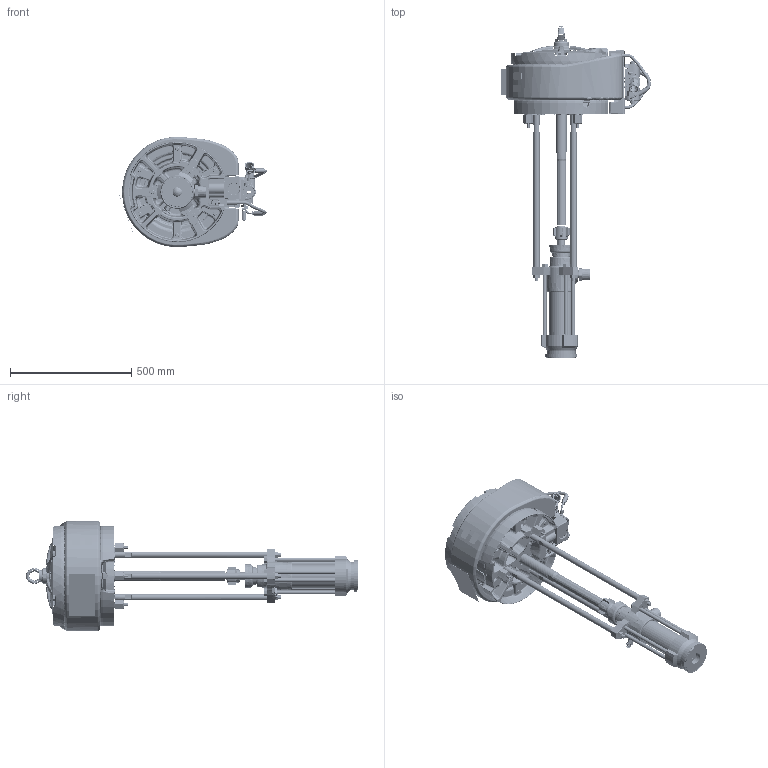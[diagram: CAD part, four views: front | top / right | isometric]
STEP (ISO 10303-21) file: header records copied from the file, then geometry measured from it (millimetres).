
FILE_DESCRIPTION((''),'2;1');
FILE_NAME('P35LCS-EN-E_PRT','2020-05-28T13:57:55',('qusrh3'),(''),'CREO PARAMETRIC BY PTC INC, 2019030','CREO PARAMETRIC BY PTC INC, 2019030','');
FILE_SCHEMA(('CONFIG_CONTROL_DESIGN'));
Length unit declared in the file: inch
Products named in the file (1): P35LCS-EN-E_PRT
Bounding box: 615.56 x 1366.4 x 454.59 mm (x, y, z)
Surface area: 3695355.3 mm2 (no closed solid volume)
Topology: 0 solids, 625 shells, 4210 faces, 17173 edges, 13048 vertices
Faces by surface type: plane 1237, bspline 890, cylinder 879, cone 625, torus 569, extrusion 6, sphere 4
Entity records: 248471 total; most frequent: CARTESIAN_POINT 125839, ORIENTED_EDGE 23595, DIRECTION 21669, EDGE_CURVE 17166, VERTEX_POINT 13048, AXIS2_PLACEMENT_3D 8607, B_SPLINE_CURVE_WITH_KNOTS 7430, CIRCLE 5291
